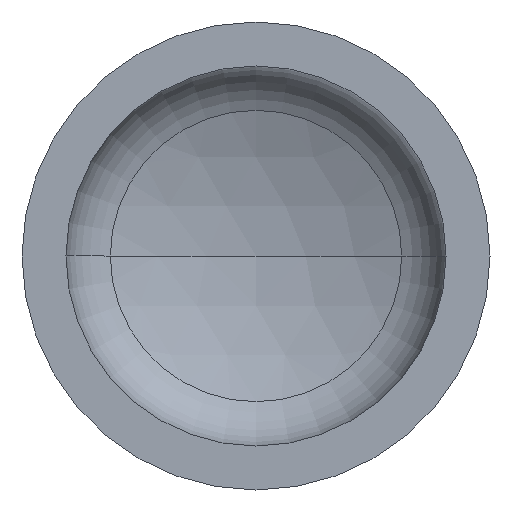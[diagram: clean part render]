
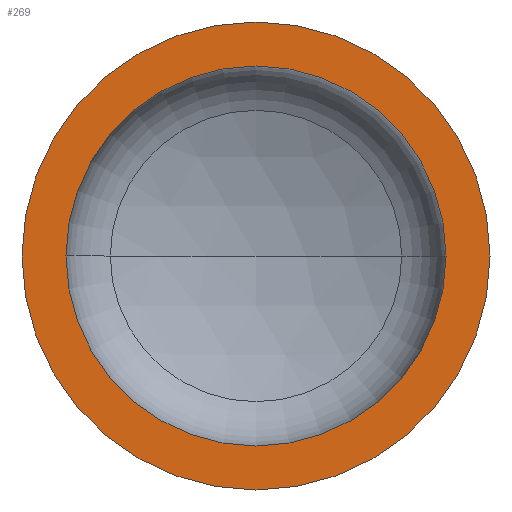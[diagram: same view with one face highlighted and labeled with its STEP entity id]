
A CAD part, front view. The second image highlights one B-rep face of the part: STEP entity #269.
In plain terms, the highlighted planar face has unit normal (0, -1, 0).
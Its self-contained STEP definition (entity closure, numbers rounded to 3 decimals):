
#3 = DIRECTION ( 'NONE',  ( 1., 0., 0. ) ) ;
#5 = AXIS2_PLACEMENT_3D ( 'NONE', #277, #21, #194 ) ;
#10 = VERTEX_POINT ( 'NONE', #287 ) ;
#17 = VERTEX_POINT ( 'NONE', #311 ) ;
#18 = AXIS2_PLACEMENT_3D ( 'NONE', #92, #200, #108 ) ;
#21 = DIRECTION ( 'NONE',  ( 0., -1., 0. ) ) ;
#30 = ORIENTED_EDGE ( 'NONE', *, *, #365, .T. ) ;
#34 = VERTEX_POINT ( 'NONE', #377 ) ;
#55 = ORIENTED_EDGE ( 'NONE', *, *, #82, .T. ) ;
#62 = AXIS2_PLACEMENT_3D ( 'NONE', #353, #361, #359 ) ;
#64 = EDGE_LOOP ( 'NONE', ( #100, #125 ) ) ;
#70 = AXIS2_PLACEMENT_3D ( 'NONE', #211, #222, #223 ) ;
#82 = EDGE_CURVE ( 'NONE', #34, #10, #256, .T. ) ;
#85 = EDGE_CURVE ( 'NONE', #17, #106, #308, .T. ) ;
#92 = CARTESIAN_POINT ( 'NONE',  ( -500., 0., 0. ) ) ;
#100 = ORIENTED_EDGE ( 'NONE', *, *, #85, .F. ) ;
#106 = VERTEX_POINT ( 'NONE', #260 ) ;
#108 = DIRECTION ( 'NONE',  ( -1., 0., 0. ) ) ;
#110 = PLANE ( 'NONE',  #18 ) ;
#125 = ORIENTED_EDGE ( 'NONE', *, *, #341, .F. ) ;
#135 = FACE_BOUND ( 'NONE', #64, .T. ) ;
#188 = CIRCLE ( 'NONE', #318, 500. ) ;
#194 = DIRECTION ( 'NONE',  ( 1., 0., 0. ) ) ;
#200 = DIRECTION ( 'NONE',  ( 0., 1., 0. ) ) ;
#211 = CARTESIAN_POINT ( 'NONE',  ( 0., 0., 0. ) ) ;
#222 = DIRECTION ( 'NONE',  ( 0., -1., 0. ) ) ;
#223 = DIRECTION ( 'NONE',  ( 1., 0., 0. ) ) ;
#229 = CARTESIAN_POINT ( 'NONE',  ( 0., 0., 0. ) ) ;
#256 = CIRCLE ( 'NONE', #70, 500. ) ;
#260 = CARTESIAN_POINT ( 'NONE',  ( -406., 0., 0. ) ) ;
#269 = ADVANCED_FACE ( 'NONE', ( #135, #279 ), #110, .F. ) ;
#277 = CARTESIAN_POINT ( 'NONE',  ( 0., 0., 0. ) ) ;
#279 = FACE_OUTER_BOUND ( 'NONE', #314, .T. ) ;
#287 = CARTESIAN_POINT ( 'NONE',  ( 500., 0., 0. ) ) ;
#288 = DIRECTION ( 'NONE',  ( 0., -1., 0. ) ) ;
#308 = CIRCLE ( 'NONE', #62, 406. ) ;
#311 = CARTESIAN_POINT ( 'NONE',  ( 406., 0., 0. ) ) ;
#314 = EDGE_LOOP ( 'NONE', ( #30, #55 ) ) ;
#318 = AXIS2_PLACEMENT_3D ( 'NONE', #229, #288, #3 ) ;
#341 = EDGE_CURVE ( 'NONE', #106, #17, #381, .T. ) ;
#353 = CARTESIAN_POINT ( 'NONE',  ( 0., 0., 0. ) ) ;
#359 = DIRECTION ( 'NONE',  ( 1., 0., 0. ) ) ;
#361 = DIRECTION ( 'NONE',  ( 0., -1., 0. ) ) ;
#365 = EDGE_CURVE ( 'NONE', #10, #34, #188, .T. ) ;
#377 = CARTESIAN_POINT ( 'NONE',  ( -500., 0., 0. ) ) ;
#381 = CIRCLE ( 'NONE', #5, 406. ) ;
